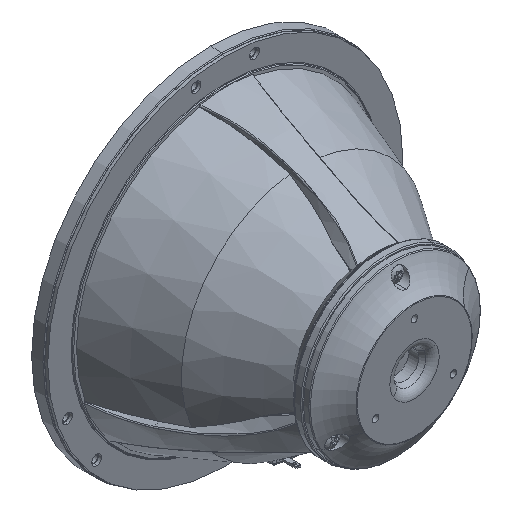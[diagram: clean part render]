
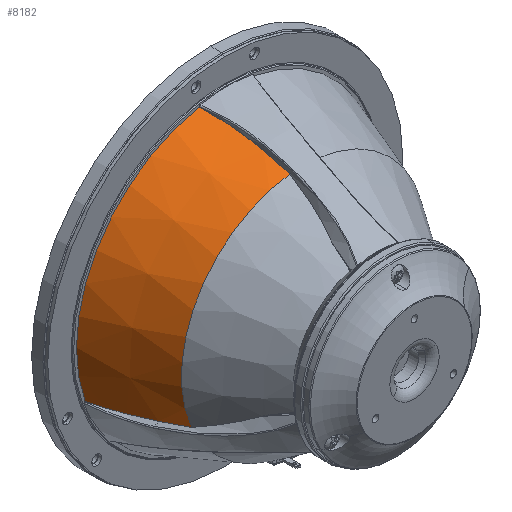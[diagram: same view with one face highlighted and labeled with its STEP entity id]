
A CAD part, isometric view. The second image highlights one B-rep face of the part: STEP entity #8182.
In plain terms, the highlighted conical face has half-angle 19.784 degrees and reference radius 79.477 mm.
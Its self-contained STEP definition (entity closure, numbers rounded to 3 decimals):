
#172 = ORIENTED_EDGE ( 'NONE', *, *, #28337, .F. ) ;
#311 = CARTESIAN_POINT ( 'NONE',  ( -7.82, 20., 66.809 ) ) ;
#3225 = CIRCLE ( 'NONE', #40611, 76.978 ) ;
#3436 = DIRECTION ( 'NONE',  ( 0., 0., 1. ) ) ;
#3962 = CARTESIAN_POINT ( 'NONE',  ( -58.829, 11.541, -25.762 ) ) ;
#4404 = ORIENTED_EDGE ( 'NONE', *, *, #7082, .F. ) ;
#4918 = VERTEX_POINT ( 'NONE', #43487 ) ;
#5182 = FACE_OUTER_BOUND ( 'NONE', #23226, .T. ) ;
#5629 = CARTESIAN_POINT ( 'NONE',  ( -10.968, 38.129, 72.971 ) ) ;
#6414 = CARTESIAN_POINT ( 'NONE',  ( -7.82, 20., 66.809 ) ) ;
#7082 = EDGE_CURVE ( 'NONE', #4918, #13737, #20437, .T. ) ;
#7939 = CARTESIAN_POINT ( 'NONE',  ( -70.55, 42.577, -26.599 ) ) ;
#8182 = ADVANCED_FACE ( 'NONE', ( #5182 ), #22637, .T. ) ;
#9324 = CARTESIAN_POINT ( 'NONE',  ( -72.487, 47., -25.907 ) ) ;
#10485 = EDGE_CURVE ( 'NONE', #13737, #43224, #11699, .T. ) ;
#10901 = CARTESIAN_POINT ( 'NONE',  ( -7.104, 11.541, 63.829 ) ) ;
#11167 = CARTESIAN_POINT ( 'NONE',  ( -68.675, 38.12, -26.988 ) ) ;
#11699 = B_SPLINE_CURVE_WITH_KNOTS ( 'NONE', 3,
 ( #311, #17563, #10901, #17358 ),
 .UNSPECIFIED., .F., .F.,
 ( 4, 4 ),
 ( 0., 0.013 ),
 .UNSPECIFIED. ) ;
#13737 = VERTEX_POINT ( 'NONE', #6414 ) ;
#15242 = DIRECTION ( 'NONE',  ( 0., -1., 0. ) ) ;
#16447 = CARTESIAN_POINT ( 'NONE',  ( -8.256, 24.592, 68.421 ) ) ;
#17249 = DIRECTION ( 'NONE',  ( 0., 1., 0. ) ) ;
#17358 = CARTESIAN_POINT ( 'NONE',  ( -6.874, 7.307, 62.322 ) ) ;
#17515 = AXIS2_PLACEMENT_3D ( 'NONE', #19203, #33216, #40553 ) ;
#17563 = CARTESIAN_POINT ( 'NONE',  ( -7.419, 15.771, 65.325 ) ) ;
#18191 = VERTEX_POINT ( 'NONE', #9324 ) ;
#18470 = ORIENTED_EDGE ( 'NONE', *, *, #39183, .T. ) ;
#19203 = CARTESIAN_POINT ( 'NONE',  ( 0., 53.949, 0. ) ) ;
#19922 = CARTESIAN_POINT ( 'NONE',  ( -61.769, 20., -26.632 ) ) ;
#20437 = B_SPLINE_CURVE_WITH_KNOTS ( 'NONE', 3,
 ( #34107, #37338, #5629, #27213, #16447, #34334 ),
 .UNSPECIFIED., .F., .F.,
 ( 4, 2, 4 ),
 ( 0.003, 0.018, 0.032 ),
 .UNSPECIFIED. ) ;
#21662 = CARTESIAN_POINT ( 'NONE',  ( 0., 47., 0. ) ) ;
#22637 = CONICAL_SURFACE ( 'NONE', #17515, 79.477, 0.345 ) ;
#23226 = EDGE_LOOP ( 'NONE', ( #35866, #4404, #18470, #172, #31127, #25177 ) ) ;
#23281 = CARTESIAN_POINT ( 'NONE',  ( -6.874, 7.307, 62.322 ) ) ;
#25177 = ORIENTED_EDGE ( 'NONE', *, *, #43046, .T. ) ;
#25728 = B_SPLINE_CURVE_WITH_KNOTS ( 'NONE', 3,
 ( #32063, #42618, #43080, #11167, #7939, #38521 ),
 .UNSPECIFIED., .F., .F.,
 ( 4, 2, 4 ),
 ( 0., 0.015, 0.029 ),
 .UNSPECIFIED. ) ;
#27213 = CARTESIAN_POINT ( 'NONE',  ( -8.975, 29.133, 69.982 ) ) ;
#28337 = EDGE_CURVE ( 'NONE', #32483, #18191, #25728, .T. ) ;
#31127 = ORIENTED_EDGE ( 'NONE', *, *, #34029, .F. ) ;
#31334 = CARTESIAN_POINT ( 'NONE',  ( -61.769, 20., -26.632 ) ) ;
#31765 = CARTESIAN_POINT ( 'NONE',  ( -57.41, 7.307, -25.208 ) ) ;
#32063 = CARTESIAN_POINT ( 'NONE',  ( -61.769, 20., -26.632 ) ) ;
#32483 = VERTEX_POINT ( 'NONE', #19922 ) ;
#32769 = CIRCLE ( 'NONE', #34234, 62.7 ) ;
#33216 = DIRECTION ( 'NONE',  ( 0., 1., 0. ) ) ;
#34029 = EDGE_CURVE ( 'NONE', #41917, #32483, #39770, .T. ) ;
#34107 = CARTESIAN_POINT ( 'NONE',  ( -13.808, 47., 75.729 ) ) ;
#34234 = AXIS2_PLACEMENT_3D ( 'NONE', #44561, #17249, #3436 ) ;
#34334 = CARTESIAN_POINT ( 'NONE',  ( -7.82, 20., 66.809 ) ) ;
#34963 = CARTESIAN_POINT ( 'NONE',  ( -60.283, 15.771, -26.238 ) ) ;
#35866 = ORIENTED_EDGE ( 'NONE', *, *, #10485, .F. ) ;
#37338 = CARTESIAN_POINT ( 'NONE',  ( -12.241, 42.583, 74.4 ) ) ;
#38521 = CARTESIAN_POINT ( 'NONE',  ( -72.487, 47., -25.907 ) ) ;
#38900 = DIRECTION ( 'NONE',  ( 0., 0., -1. ) ) ;
#39183 = EDGE_CURVE ( 'NONE', #4918, #18191, #3225, .T. ) ;
#39770 = B_SPLINE_CURVE_WITH_KNOTS ( 'NONE', 3,
 ( #31765, #3962, #34963, #31334 ),
 .UNSPECIFIED., .F., .F.,
 ( 4, 4 ),
 ( 0., 0.013 ),
 .UNSPECIFIED. ) ;
#40553 = DIRECTION ( 'NONE',  ( 0., 0., 1. ) ) ;
#40611 = AXIS2_PLACEMENT_3D ( 'NONE', #21662, #15242, #38900 ) ;
#41917 = VERTEX_POINT ( 'NONE', #42811 ) ;
#42618 = CARTESIAN_POINT ( 'NONE',  ( -63.381, 24.586, -27.06 ) ) ;
#42811 = CARTESIAN_POINT ( 'NONE',  ( -57.41, 7.307, -25.208 ) ) ;
#43046 = EDGE_CURVE ( 'NONE', #41917, #43224, #32769, .T. ) ;
#43080 = CARTESIAN_POINT ( 'NONE',  ( -65.09, 29.124, -27.218 ) ) ;
#43224 = VERTEX_POINT ( 'NONE', #23281 ) ;
#43487 = CARTESIAN_POINT ( 'NONE',  ( -13.808, 47., 75.729 ) ) ;
#44561 = CARTESIAN_POINT ( 'NONE',  ( 0., 7.307, 0. ) ) ;
